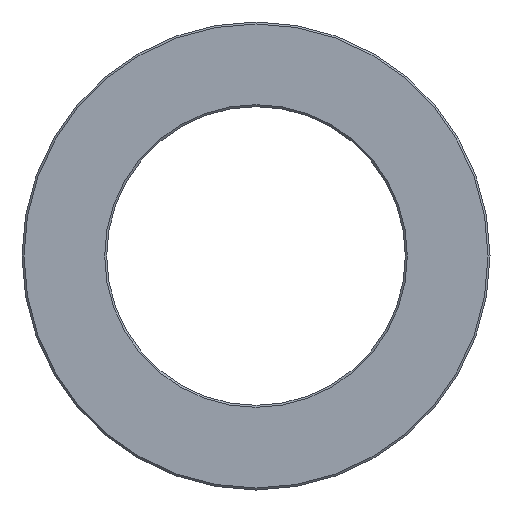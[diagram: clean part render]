
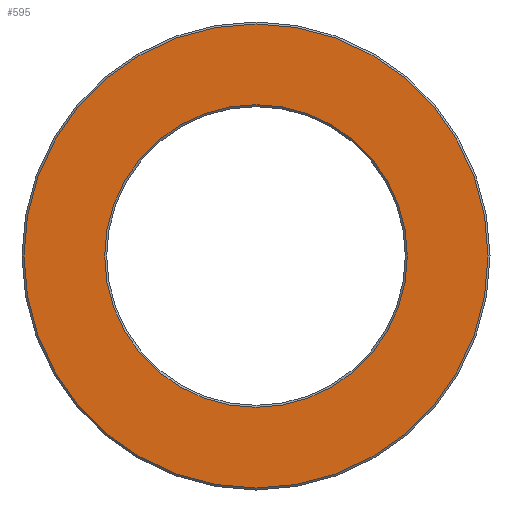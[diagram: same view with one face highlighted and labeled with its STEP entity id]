
A CAD part, left-side view. The second image highlights one B-rep face of the part: STEP entity #595.
In plain terms, the highlighted planar face has unit normal (-1, 0, 0).
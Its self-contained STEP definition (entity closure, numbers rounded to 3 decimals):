
#17 = EDGE_CURVE ( 'NONE', #523, #522, #626, .T. ) ;
#18 = EDGE_CURVE ( 'NONE', #508, #531, #622, .T. ) ;
#40 = DIRECTION ( 'NONE',  ( 0., -1., 0. ) ) ;
#42 = PLANE ( 'NONE',  #728 ) ;
#43 = FACE_OUTER_BOUND ( 'NONE', #536, .T. ) ;
#45 = FACE_BOUND ( 'NONE', #548, .T. ) ;
#46 = CARTESIAN_POINT ( 'NONE',  ( -27., 15., 0. ) ) ;
#47 = DIRECTION ( 'NONE',  ( -1., 0., 0. ) ) ;
#78 = DIRECTION ( 'NONE',  ( 0., -1., 0. ) ) ;
#79 = DIRECTION ( 'NONE',  ( 1., 0., 0. ) ) ;
#80 = CARTESIAN_POINT ( 'NONE',  ( -27., 0., 0. ) ) ;
#161 = CARTESIAN_POINT ( 'NONE',  ( -27., -23.3, 0. ) ) ;
#286 = CARTESIAN_POINT ( 'NONE',  ( -27., 15.2, 0. ) ) ;
#290 = CARTESIAN_POINT ( 'NONE',  ( -27., 0., 0. ) ) ;
#296 = DIRECTION ( 'NONE',  ( 0., -1., 0. ) ) ;
#303 = DIRECTION ( 'NONE',  ( -1., 0., 0. ) ) ;
#304 = CARTESIAN_POINT ( 'NONE',  ( -27., -15.2, 0. ) ) ;
#336 = CARTESIAN_POINT ( 'NONE',  ( -27., 23.3, 0. ) ) ;
#358 = DIRECTION ( 'NONE',  ( 0., -1., 0. ) ) ;
#359 = DIRECTION ( 'NONE',  ( -1., 0., 0. ) ) ;
#360 = CARTESIAN_POINT ( 'NONE',  ( -27., 0., 0. ) ) ;
#361 = DIRECTION ( 'NONE',  ( 0., -1., 0. ) ) ;
#362 = DIRECTION ( 'NONE',  ( 1., 0., 0. ) ) ;
#363 = CARTESIAN_POINT ( 'NONE',  ( -27., 0., 0. ) ) ;
#459 = ORIENTED_EDGE ( 'NONE', *, *, #568, .T. ) ;
#460 = ORIENTED_EDGE ( 'NONE', *, *, #18, .T. ) ;
#461 = ORIENTED_EDGE ( 'NONE', *, *, #17, .T. ) ;
#462 = ORIENTED_EDGE ( 'NONE', *, *, #607, .T. ) ;
#508 = VERTEX_POINT ( 'NONE', #336 ) ;
#522 = VERTEX_POINT ( 'NONE', #304 ) ;
#523 = VERTEX_POINT ( 'NONE', #286 ) ;
#531 = VERTEX_POINT ( 'NONE', #161 ) ;
#536 = EDGE_LOOP ( 'NONE', ( #460, #459 ) ) ;
#548 = EDGE_LOOP ( 'NONE', ( #462, #461 ) ) ;
#568 = EDGE_CURVE ( 'NONE', #531, #508, #665, .T. ) ;
#595 = ADVANCED_FACE ( 'NONE', ( #45, #43 ), #42, .T. ) ;
#607 = EDGE_CURVE ( 'NONE', #522, #523, #735, .T. ) ;
#622 = CIRCLE ( 'NONE', #631, 23.3 ) ;
#626 = CIRCLE ( 'NONE', #629, 15.2 ) ;
#629 = AXIS2_PLACEMENT_3D ( 'NONE', #363, #362, #361 ) ;
#631 = AXIS2_PLACEMENT_3D ( 'NONE', #360, #359, #358 ) ;
#665 = CIRCLE ( 'NONE', #669, 23.3 ) ;
#669 = AXIS2_PLACEMENT_3D ( 'NONE', #290, #303, #296 ) ;
#728 = AXIS2_PLACEMENT_3D ( 'NONE', #46, #47, #40 ) ;
#735 = CIRCLE ( 'NONE', #750, 15.2 ) ;
#750 = AXIS2_PLACEMENT_3D ( 'NONE', #80, #79, #78 ) ;
